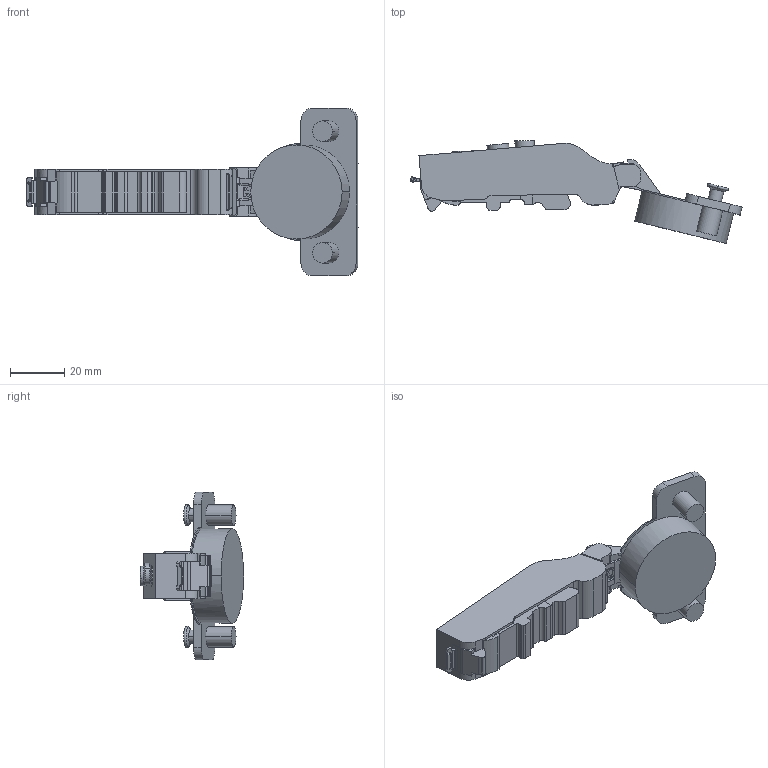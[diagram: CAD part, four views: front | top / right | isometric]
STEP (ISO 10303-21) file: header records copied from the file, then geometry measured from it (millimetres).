
FILE_DESCRIPTION (( 'STEP AP203' ), '1' );
FILE_NAME ('C81A875KFAB DTC 3D OPEN.STEP', '2024-07-24T08:57:13', ( '微软用户' ), ( '微软中国' ), 'SwSTEP 2.0', 'SolidWorks 2021', '' );
FILE_SCHEMA (( 'CONFIG_CONTROL_DESIGN' ));
Length unit declared in the file: millimetre
Products named in the file (1): C81A875KFAB DTC 3D OPEN
Bounding box: 122.83 x 38.13 x 62 mm (x, y, z)
Volume: 42190.4 mm3; surface area: 13145.8 mm2
Topology: 1 solids, 2 shells, 397 faces, 1140 edges, 753 vertices
Faces by surface type: plane 209, cylinder 138, torus 24, bspline 16, cone 10
Entity records: 13706 total; most frequent: CARTESIAN_POINT 3370, ORIENTED_EDGE 2280, DIRECTION 2052, EDGE_CURVE 1140, VERTEX_POINT 753, AXIS2_PLACEMENT_3D 702, LINE 648, VECTOR 648
